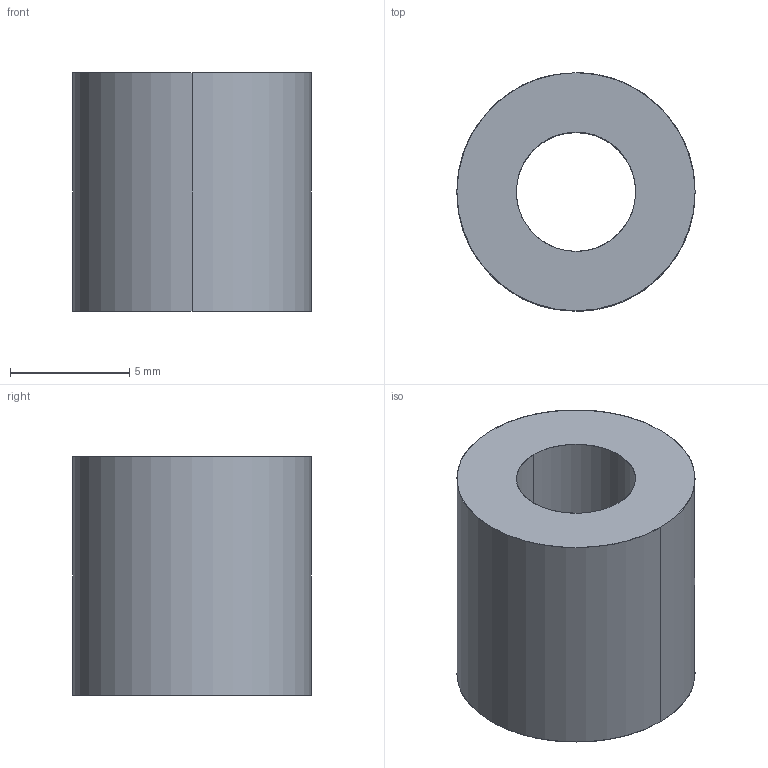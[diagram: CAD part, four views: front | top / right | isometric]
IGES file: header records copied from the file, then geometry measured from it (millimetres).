
Global section: file name: E:\UnigraphicsGraphicData\MISUMI_PRESS-PARTS\IGES\3d_swb10-10_00684_r00.igs; native system: NX V5.0; preprocessor: UGS NX IGES V5.0; author: MISUMI; date: 20110105.163252; units: millimetre
Bounding box: 10 x 10 x 10 mm (x, y, z)
Surface area: 589.4 mm2 (no closed solid volume)
Topology: 0 solids, 0 shells, 6 faces, 48 edges, 48 vertices
Faces by surface type: bspline 6
